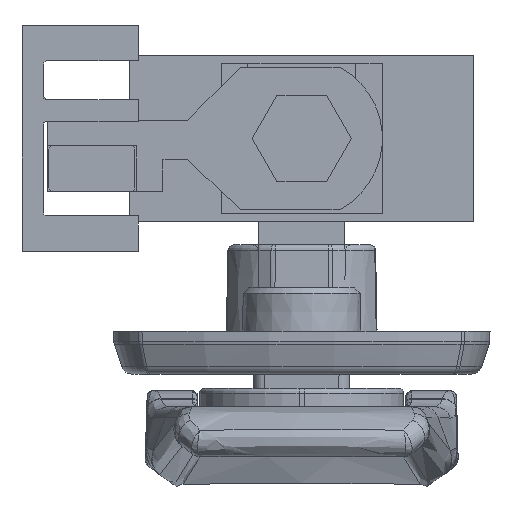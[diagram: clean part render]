
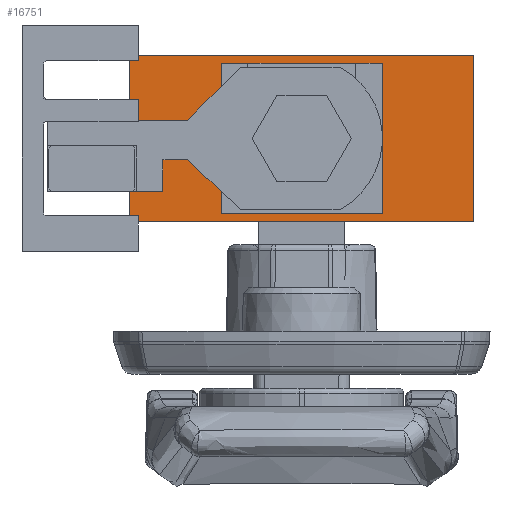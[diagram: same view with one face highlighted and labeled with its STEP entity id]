
A CAD part, front view. The second image highlights one B-rep face of the part: STEP entity #16751.
In plain terms, the highlighted planar face has unit normal (0, -1, 0).
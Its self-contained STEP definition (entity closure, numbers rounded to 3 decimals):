
#219 = CARTESIAN_POINT ( 'NONE',  ( -16., -199.25, -7.75 ) ) ;
#235 = CARTESIAN_POINT ( 'NONE',  ( 7., -199.25, 6.25 ) ) ;
#1727 = LINE ( 'NONE', #11523, #10078 ) ;
#2164 = FACE_BOUND ( 'NONE', #19482, .T. ) ;
#2653 = DIRECTION ( 'NONE',  ( 0., 0., 1. ) ) ;
#3398 = CARTESIAN_POINT ( 'NONE',  ( -16., -199.25, 7.75 ) ) ;
#3736 = CARTESIAN_POINT ( 'NONE',  ( 16., -199.25, 7.75 ) ) ;
#3788 = VERTEX_POINT ( 'NONE', #27383 ) ;
#5233 = LINE ( 'NONE', #3736, #17395 ) ;
#5347 = VECTOR ( 'NONE', #29751, 1000. ) ;
#6417 = VECTOR ( 'NONE', #23413, 1000. ) ;
#6801 = ORIENTED_EDGE ( 'NONE', *, *, #8003, .F. ) ;
#7126 = EDGE_CURVE ( 'NONE', #19489, #13714, #26874, .T. ) ;
#7344 = ORIENTED_EDGE ( 'NONE', *, *, #25838, .T. ) ;
#7880 = DIRECTION ( 'NONE',  ( 1., 0., 0. ) ) ;
#7988 = CARTESIAN_POINT ( 'NONE',  ( 7., -199.25, 6.25 ) ) ;
#8003 = EDGE_CURVE ( 'NONE', #3788, #10900, #17763, .T. ) ;
#8216 = CARTESIAN_POINT ( 'NONE',  ( 7., -199.25, 6.25 ) ) ;
#8980 = LINE ( 'NONE', #9302, #16551 ) ;
#9302 = CARTESIAN_POINT ( 'NONE',  ( -16., -199.25, 7.75 ) ) ;
#10078 = VECTOR ( 'NONE', #14275, 1000. ) ;
#10900 = VERTEX_POINT ( 'NONE', #28444 ) ;
#11273 = EDGE_CURVE ( 'NONE', #27657, #18386, #1727, .T. ) ;
#11523 = CARTESIAN_POINT ( 'NONE',  ( -16., -199.25, -7.75 ) ) ;
#11755 = ORIENTED_EDGE ( 'NONE', *, *, #12384, .F. ) ;
#11808 = DIRECTION ( 'NONE',  ( 0., 1., 0. ) ) ;
#12131 = FACE_OUTER_BOUND ( 'NONE', #18309, .T. ) ;
#12366 = ORIENTED_EDGE ( 'NONE', *, *, #11273, .T. ) ;
#12384 = EDGE_CURVE ( 'NONE', #13714, #26480, #28930, .T. ) ;
#12760 = EDGE_CURVE ( 'NONE', #10900, #18386, #5233, .T. ) ;
#13566 = DIRECTION ( 'NONE',  ( 0., 0., -1. ) ) ;
#13714 = VERTEX_POINT ( 'NONE', #30254 ) ;
#14275 = DIRECTION ( 'NONE',  ( 1., 0., 0. ) ) ;
#14376 = DIRECTION ( 'NONE',  ( 1., 0., 0. ) ) ;
#14429 = EDGE_CURVE ( 'NONE', #31649, #19489, #22785, .T. ) ;
#15636 = ORIENTED_EDGE ( 'NONE', *, *, #12760, .F. ) ;
#16152 = ORIENTED_EDGE ( 'NONE', *, *, #22320, .F. ) ;
#16551 = VECTOR ( 'NONE', #31132, 1000. ) ;
#16751 = ADVANCED_FACE ( 'NONE', ( #2164, #12131 ), #21675, .F. ) ;
#16828 = CARTESIAN_POINT ( 'NONE',  ( -16., -199.25, 7.75 ) ) ;
#16940 = ORIENTED_EDGE ( 'NONE', *, *, #7126, .F. ) ;
#17395 = VECTOR ( 'NONE', #13566, 1000. ) ;
#17763 = LINE ( 'NONE', #3398, #22879 ) ;
#18309 = EDGE_LOOP ( 'NONE', ( #12366, #15636, #6801, #7344 ) ) ;
#18386 = VERTEX_POINT ( 'NONE', #30090 ) ;
#18924 = VECTOR ( 'NONE', #14376, 1000. ) ;
#19482 = EDGE_LOOP ( 'NONE', ( #16940, #23690, #16152, #11755 ) ) ;
#19489 = VERTEX_POINT ( 'NONE', #30673 ) ;
#19583 = LINE ( 'NONE', #235, #26810 ) ;
#19891 = CARTESIAN_POINT ( 'NONE',  ( -7., -199.25, -6.25 ) ) ;
#21675 = PLANE ( 'NONE',  #29221 ) ;
#21832 = DIRECTION ( 'NONE',  ( 0., 0., 1. ) ) ;
#22320 = EDGE_CURVE ( 'NONE', #26480, #31649, #19583, .T. ) ;
#22785 = LINE ( 'NONE', #8216, #6417 ) ;
#22851 = CARTESIAN_POINT ( 'NONE',  ( 7., -199.25, -6.25 ) ) ;
#22879 = VECTOR ( 'NONE', #7880, 1000. ) ;
#23413 = DIRECTION ( 'NONE',  ( -1., 0., 0. ) ) ;
#23690 = ORIENTED_EDGE ( 'NONE', *, *, #14429, .F. ) ;
#25838 = EDGE_CURVE ( 'NONE', #3788, #27657, #8980, .T. ) ;
#26480 = VERTEX_POINT ( 'NONE', #22851 ) ;
#26810 = VECTOR ( 'NONE', #2653, 1000. ) ;
#26874 = LINE ( 'NONE', #19891, #5347 ) ;
#27383 = CARTESIAN_POINT ( 'NONE',  ( -16., -199.25, 7.75 ) ) ;
#27657 = VERTEX_POINT ( 'NONE', #219 ) ;
#28444 = CARTESIAN_POINT ( 'NONE',  ( 16., -199.25, 7.75 ) ) ;
#28930 = LINE ( 'NONE', #29093, #18924 ) ;
#29093 = CARTESIAN_POINT ( 'NONE',  ( -7., -199.25, -6.25 ) ) ;
#29221 = AXIS2_PLACEMENT_3D ( 'NONE', #16828, #11808, #21832 ) ;
#29751 = DIRECTION ( 'NONE',  ( 0., 0., -1. ) ) ;
#30090 = CARTESIAN_POINT ( 'NONE',  ( 16., -199.25, -7.75 ) ) ;
#30254 = CARTESIAN_POINT ( 'NONE',  ( -7., -199.25, -6.25 ) ) ;
#30673 = CARTESIAN_POINT ( 'NONE',  ( -7., -199.25, 6.25 ) ) ;
#31132 = DIRECTION ( 'NONE',  ( 0., 0., -1. ) ) ;
#31649 = VERTEX_POINT ( 'NONE', #7988 ) ;
